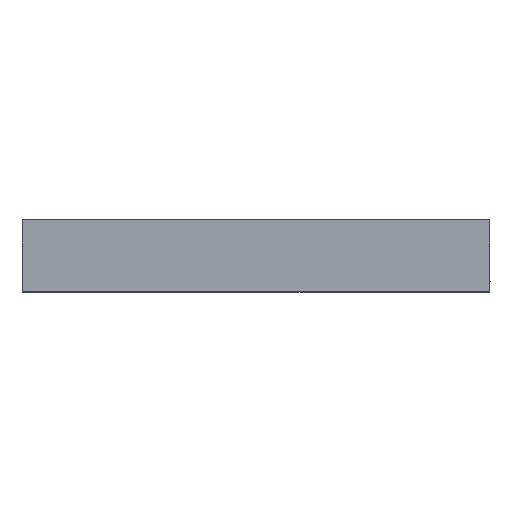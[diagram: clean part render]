
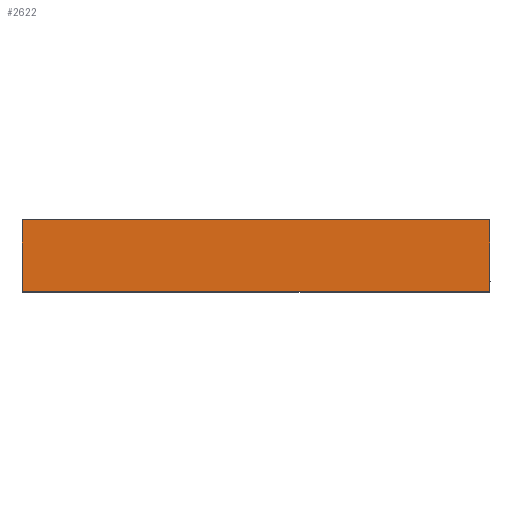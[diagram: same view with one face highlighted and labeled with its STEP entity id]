
A CAD part, top view. The second image highlights one B-rep face of the part: STEP entity #2622.
In plain terms, the highlighted planar face has unit normal (0, 0, 1).
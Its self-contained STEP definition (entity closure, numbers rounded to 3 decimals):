
#27 = VECTOR ( 'NONE', #1193, 1000. ) ;
#69 = CARTESIAN_POINT ( 'NONE',  ( 0., 7.5, 0. ) ) ;
#224 = EDGE_CURVE ( 'NONE', #2155, #1258, #830, .T. ) ;
#368 = EDGE_CURVE ( 'NONE', #957, #1258, #874, .T. ) ;
#404 = DIRECTION ( 'NONE',  ( -1., 0., 0. ) ) ;
#438 = AXIS2_PLACEMENT_3D ( 'NONE', #2472, #1598, #1296 ) ;
#495 = CARTESIAN_POINT ( 'NONE',  ( -49., 0., 0. ) ) ;
#728 = CARTESIAN_POINT ( 'NONE',  ( 0., 7.5, 0. ) ) ;
#740 = FACE_OUTER_BOUND ( 'NONE', #3778, .T. ) ;
#830 = LINE ( 'NONE', #1157, #27 ) ;
#874 = LINE ( 'NONE', #728, #3325 ) ;
#957 = VERTEX_POINT ( 'NONE', #69 ) ;
#1017 = VECTOR ( 'NONE', #2188, 1000. ) ;
#1129 = ORIENTED_EDGE ( 'NONE', *, *, #2591, .F. ) ;
#1157 = CARTESIAN_POINT ( 'NONE',  ( -49., -19.849, 0. ) ) ;
#1193 = DIRECTION ( 'NONE',  ( 0., 1., 0. ) ) ;
#1258 = VERTEX_POINT ( 'NONE', #3127 ) ;
#1296 = DIRECTION ( 'NONE',  ( 0., -1., 0. ) ) ;
#1448 = LINE ( 'NONE', #2796, #1017 ) ;
#1598 = DIRECTION ( 'NONE',  ( 0., 0., 1. ) ) ;
#1784 = LINE ( 'NONE', #2402, #3615 ) ;
#1932 = PLANE ( 'NONE',  #438 ) ;
#2155 = VERTEX_POINT ( 'NONE', #495 ) ;
#2188 = DIRECTION ( 'NONE',  ( -1., 0., 0. ) ) ;
#2402 = CARTESIAN_POINT ( 'NONE',  ( 0., 0., 0. ) ) ;
#2472 = CARTESIAN_POINT ( 'NONE',  ( 0., 0., 0. ) ) ;
#2580 = ORIENTED_EDGE ( 'NONE', *, *, #368, .T. ) ;
#2591 = EDGE_CURVE ( 'NONE', #3124, #2155, #1448, .T. ) ;
#2622 = ADVANCED_FACE ( 'NONE', ( #740 ), #1932, .T. ) ;
#2796 = CARTESIAN_POINT ( 'NONE',  ( 0., 0., 0. ) ) ;
#2845 = ORIENTED_EDGE ( 'NONE', *, *, #2987, .T. ) ;
#2987 = EDGE_CURVE ( 'NONE', #3124, #957, #1784, .T. ) ;
#3124 = VERTEX_POINT ( 'NONE', #3340 ) ;
#3127 = CARTESIAN_POINT ( 'NONE',  ( -49., 7.5, 0. ) ) ;
#3325 = VECTOR ( 'NONE', #404, 1000. ) ;
#3340 = CARTESIAN_POINT ( 'NONE',  ( 0., 0., 0. ) ) ;
#3355 = ORIENTED_EDGE ( 'NONE', *, *, #224, .F. ) ;
#3571 = DIRECTION ( 'NONE',  ( 0., 1., 0. ) ) ;
#3615 = VECTOR ( 'NONE', #3571, 1000. ) ;
#3778 = EDGE_LOOP ( 'NONE', ( #2580, #3355, #1129, #2845 ) ) ;
